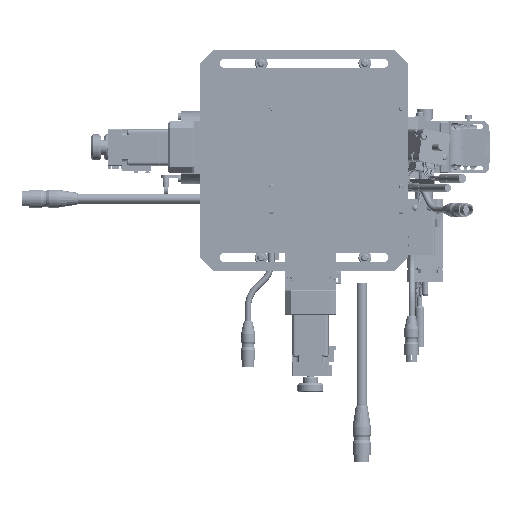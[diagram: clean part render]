
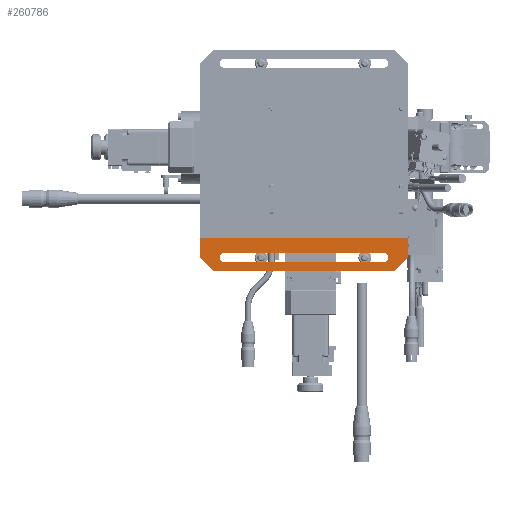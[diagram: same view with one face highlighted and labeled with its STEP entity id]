
A CAD part, front view. The second image highlights one B-rep face of the part: STEP entity #260786.
In plain terms, the highlighted planar face has unit normal (0, -1, 0).
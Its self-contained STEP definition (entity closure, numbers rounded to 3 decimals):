
#4632 = VECTOR ( 'NONE', #159595, 1000. ) ;
#7388 = CARTESIAN_POINT ( 'NONE',  ( -141.5, 0., -156.5 ) ) ;
#9161 = ORIENTED_EDGE ( 'NONE', *, *, #273687, .T. ) ;
#9703 = CARTESIAN_POINT ( 'NONE',  ( -18.5, 0., -163.5 ) ) ;
#13340 = CARTESIAN_POINT ( 'NONE',  ( 0., 0., -160. ) ) ;
#26032 = CARTESIAN_POINT ( 'NONE',  ( -150., 0., -170. ) ) ;
#45498 = VERTEX_POINT ( 'NONE', #7388 ) ;
#63849 = EDGE_CURVE ( 'NONE', #327834, #172959, #397431, .T. ) ;
#66774 = EDGE_CURVE ( 'NONE', #220367, #120661, #400617, .T. ) ;
#80303 = CARTESIAN_POINT ( 'NONE',  ( -18.5, 0., -163.5 ) ) ;
#82019 = FACE_BOUND ( 'NONE', #96367, .T. ) ;
#90511 = ORIENTED_EDGE ( 'NONE', *, *, #107704, .T. ) ;
#92773 = EDGE_LOOP ( 'NONE', ( #164364, #197383, #332847, #9161, #402982, #127909 ) ) ;
#94973 = FACE_OUTER_BOUND ( 'NONE', #92773, .T. ) ;
#96367 = EDGE_LOOP ( 'NONE', ( #516656, #404529, #90511, #377565 ) ) ;
#99646 = DIRECTION ( 'NONE',  ( 0., 0., 1. ) ) ;
#107704 = EDGE_CURVE ( 'NONE', #168532, #45498, #529051, .T. ) ;
#113991 = LINE ( 'NONE', #201052, #4632 ) ;
#118740 = DIRECTION ( 'NONE',  ( 0., -1., 0. ) ) ;
#120661 = VERTEX_POINT ( 'NONE', #9703 ) ;
#122117 = VERTEX_POINT ( 'NONE', #207716 ) ;
#127886 = CARTESIAN_POINT ( 'NONE',  ( -160., 0., -160. ) ) ;
#127909 = ORIENTED_EDGE ( 'NONE', *, *, #408535, .F. ) ;
#131104 = LINE ( 'NONE', #80303, #188959 ) ;
#135258 = DIRECTION ( 'NONE',  ( 1., 0., 0. ) ) ;
#137494 = VECTOR ( 'NONE', #135258, 1000. ) ;
#158881 = DIRECTION ( 'NONE',  ( 1., 0., 0. ) ) ;
#159595 = DIRECTION ( 'NONE',  ( 1., 0., 0. ) ) ;
#160020 = DIRECTION ( 'NONE',  ( 1., 0., 0. ) ) ;
#164364 = ORIENTED_EDGE ( 'NONE', *, *, #527053, .T. ) ;
#168532 = VERTEX_POINT ( 'NONE', #341259 ) ;
#169625 = DIRECTION ( 'NONE',  ( 0.707, 0., 0.707 ) ) ;
#172959 = VERTEX_POINT ( 'NONE', #26032 ) ;
#178433 = VERTEX_POINT ( 'NONE', #196672 ) ;
#188959 = VECTOR ( 'NONE', #495460, 1000. ) ;
#192171 = DIRECTION ( 'NONE',  ( 0., 1., 0. ) ) ;
#196672 = CARTESIAN_POINT ( 'NONE',  ( -160., 0., -145. ) ) ;
#197383 = ORIENTED_EDGE ( 'NONE', *, *, #63849, .T. ) ;
#198254 = CARTESIAN_POINT ( 'NONE',  ( -18.5, 0., -156.5 ) ) ;
#201052 = CARTESIAN_POINT ( 'NONE',  ( -141.5, 0., -156.5 ) ) ;
#207716 = CARTESIAN_POINT ( 'NONE',  ( -10., 0., -170. ) ) ;
#220367 = VERTEX_POINT ( 'NONE', #198254 ) ;
#260786 = ADVANCED_FACE ( 'NONE', ( #94973, #82019 ), #365076, .T. ) ;
#261755 = EDGE_CURVE ( 'NONE', #172959, #122117, #389545, .T. ) ;
#273687 = EDGE_CURVE ( 'NONE', #122117, #486301, #388693, .T. ) ;
#281244 = CARTESIAN_POINT ( 'NONE',  ( -141.5, 0., -160. ) ) ;
#281371 = CARTESIAN_POINT ( 'NONE',  ( 0., 0., -160. ) ) ;
#286834 = VECTOR ( 'NONE', #531042, 1000. ) ;
#288272 = AXIS2_PLACEMENT_3D ( 'NONE', #281244, #401845, #158881 ) ;
#291586 = AXIS2_PLACEMENT_3D ( 'NONE', #352281, #192171, #517715 ) ;
#324197 = VECTOR ( 'NONE', #169625, 1000. ) ;
#327834 = VERTEX_POINT ( 'NONE', #372317 ) ;
#331343 = EDGE_CURVE ( 'NONE', #45498, #220367, #113991, .T. ) ;
#332847 = ORIENTED_EDGE ( 'NONE', *, *, #261755, .T. ) ;
#338737 = EDGE_CURVE ( 'NONE', #120661, #168532, #131104, .T. ) ;
#341259 = CARTESIAN_POINT ( 'NONE',  ( -141.5, 0., -163.5 ) ) ;
#347979 = CARTESIAN_POINT ( 'NONE',  ( 0., 0., -145. ) ) ;
#352281 = CARTESIAN_POINT ( 'NONE',  ( -18.5, 0., -160. ) ) ;
#365076 = PLANE ( 'NONE',  #526509 ) ;
#365612 = LINE ( 'NONE', #427995, #503954 ) ;
#369110 = CARTESIAN_POINT ( 'NONE',  ( -150., 0., -170. ) ) ;
#372317 = CARTESIAN_POINT ( 'NONE',  ( -160., 0., -160. ) ) ;
#373640 = EDGE_CURVE ( 'NONE', #486301, #423841, #462441, .T. ) ;
#377565 = ORIENTED_EDGE ( 'NONE', *, *, #331343, .T. ) ;
#381566 = CARTESIAN_POINT ( 'NONE',  ( -160., 0., -145. ) ) ;
#384379 = VECTOR ( 'NONE', #415736, 1000. ) ;
#388693 = LINE ( 'NONE', #417837, #324197 ) ;
#389545 = LINE ( 'NONE', #369110, #286834 ) ;
#397431 = LINE ( 'NONE', #127886, #384379 ) ;
#400617 = CIRCLE ( 'NONE', #291586, 3.5 ) ;
#401845 = DIRECTION ( 'NONE',  ( 0., 1., 0. ) ) ;
#402982 = ORIENTED_EDGE ( 'NONE', *, *, #373640, .T. ) ;
#404529 = ORIENTED_EDGE ( 'NONE', *, *, #338737, .T. ) ;
#408291 = CARTESIAN_POINT ( 'NONE',  ( -170., 0., -172.5 ) ) ;
#408535 = EDGE_CURVE ( 'NONE', #178433, #423841, #414179, .T. ) ;
#414179 = LINE ( 'NONE', #381566, #137494 ) ;
#415736 = DIRECTION ( 'NONE',  ( 0.707, 0., -0.707 ) ) ;
#417837 = CARTESIAN_POINT ( 'NONE',  ( -10., 0., -170. ) ) ;
#423726 = VECTOR ( 'NONE', #99646, 1000. ) ;
#423841 = VERTEX_POINT ( 'NONE', #347979 ) ;
#427995 = CARTESIAN_POINT ( 'NONE',  ( -160., 0., -145. ) ) ;
#462441 = LINE ( 'NONE', #13340, #423726 ) ;
#486301 = VERTEX_POINT ( 'NONE', #281371 ) ;
#495460 = DIRECTION ( 'NONE',  ( -1., 0., 0. ) ) ;
#503954 = VECTOR ( 'NONE', #510618, 1000. ) ;
#510618 = DIRECTION ( 'NONE',  ( 0., 0., -1. ) ) ;
#516656 = ORIENTED_EDGE ( 'NONE', *, *, #66774, .T. ) ;
#517715 = DIRECTION ( 'NONE',  ( 0., 0., 1. ) ) ;
#526509 = AXIS2_PLACEMENT_3D ( 'NONE', #408291, #118740, #160020 ) ;
#527053 = EDGE_CURVE ( 'NONE', #178433, #327834, #365612, .T. ) ;
#529051 = CIRCLE ( 'NONE', #288272, 3.5 ) ;
#531042 = DIRECTION ( 'NONE',  ( 1., 0., 0. ) ) ;
